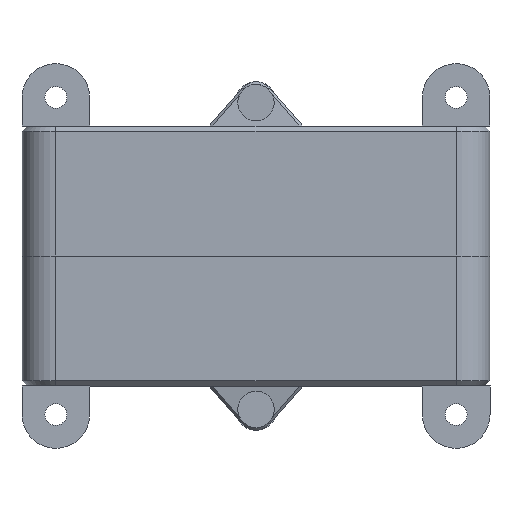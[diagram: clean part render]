
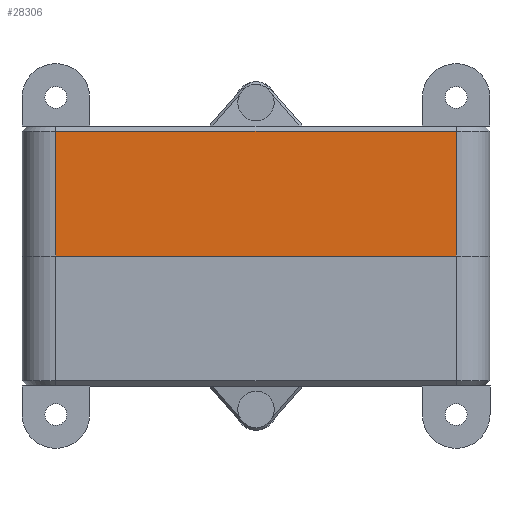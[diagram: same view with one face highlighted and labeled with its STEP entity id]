
A CAD part, front view. The second image highlights one B-rep face of the part: STEP entity #28306.
In plain terms, the highlighted planar face has unit normal (0, -1, 0).
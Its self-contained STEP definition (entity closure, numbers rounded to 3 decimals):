
#1572=PLANE('',#30098);
#2751=FACE_OUTER_BOUND('',#4358,.T.);
#4358=EDGE_LOOP('',(#22548,#22549,#22550,#22551));
#5487=LINE('',#37588,#8479);
#5529=LINE('',#37699,#8521);
#5657=LINE('',#38196,#8649);
#5658=LINE('',#38198,#8650);
#8479=VECTOR('',#31294,10.);
#8521=VECTOR('',#31378,10.);
#8649=VECTOR('',#31598,10.);
#8650=VECTOR('',#31601,10.);
#12300=VERTEX_POINT('',#37585);
#12301=VERTEX_POINT('',#37587);
#12347=VERTEX_POINT('',#37691);
#12349=VERTEX_POINT('',#37697);
#15084=EDGE_CURVE('',#12300,#12301,#5487,.T.);
#15140=EDGE_CURVE('',#12349,#12347,#5529,.T.);
#15307=EDGE_CURVE('',#12301,#12349,#5657,.T.);
#15308=EDGE_CURVE('',#12347,#12300,#5658,.T.);
#22548=ORIENTED_EDGE('',*,*,#15140,.F.);
#22549=ORIENTED_EDGE('',*,*,#15307,.F.);
#22550=ORIENTED_EDGE('',*,*,#15084,.F.);
#22551=ORIENTED_EDGE('',*,*,#15308,.F.);
#28306=ADVANCED_FACE('',(#2751),#1572,.T.);
#30098=AXIS2_PLACEMENT_3D('',#42875,#33486,#33487);
#31294=DIRECTION('',(1.,0.,0.));
#31378=DIRECTION('',(-1.,0.,0.));
#31598=DIRECTION('',(0.,0.,-1.));
#31601=DIRECTION('',(0.,0.,1.));
#33486=DIRECTION('center_axis',(0.,-1.,0.));
#33487=DIRECTION('ref_axis',(1.,0.,0.));
#37585=CARTESIAN_POINT('',(-38.5,0.,25.));
#37587=CARTESIAN_POINT('',(38.5,0.,25.));
#37588=CARTESIAN_POINT('',(-45.,0.,25.));
#37691=CARTESIAN_POINT('',(-38.5,0.,1.));
#37697=CARTESIAN_POINT('',(38.5,0.,1.));
#37699=CARTESIAN_POINT('',(-22.5,0.,1.));
#38196=CARTESIAN_POINT('',(38.5,0.,0.));
#38198=CARTESIAN_POINT('',(-38.5,0.,0.));
#42875=CARTESIAN_POINT('Origin',(-45.,0.,
0.));
